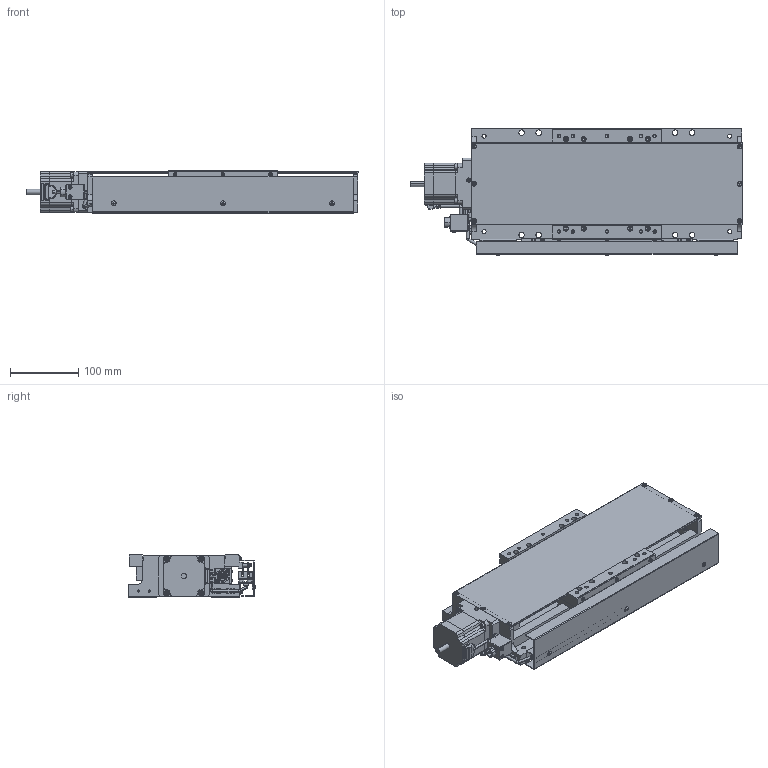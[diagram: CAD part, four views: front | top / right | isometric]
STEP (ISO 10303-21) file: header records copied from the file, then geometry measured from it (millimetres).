
FILE_DESCRIPTION (( 'STEP AP203' ), '1' );
FILE_NAME ('XA16F-L2201.STEP', '2019-02-20T08:02:54', ( '' ), ( '' ), 'SwSTEP 2.0', 'SolidWorks 2018', '' );
FILE_SCHEMA (( 'CONFIG_CONTROL_DESIGN' ));
Length unit declared in the file: millimetre
Products named in the file (3): XA16F-L2201; table; base
Assembly tree (2 placements, depth 2):
  XA16F-L2201
    table
    base
Bounding box: 486.5 x 185.89 x 62 mm (x, y, z)
Volume: 2150863.3 mm3; surface area: 531564.9 mm2
Topology: 2 solids, 4 shells, 2628 faces, 6453 edges, 3974 vertices
Faces by surface type: plane 1529, cylinder 665, cone 346, torus 36, sphere 32, bspline 20
Entity records: 77771 total; most frequent: CARTESIAN_POINT 14455, DIRECTION 13628, ORIENTED_EDGE 12702, EDGE_CURVE 6351, AXIS2_PLACEMENT_3D 4801, VECTOR 4026, LINE 4026, VERTEX_POINT 3974
